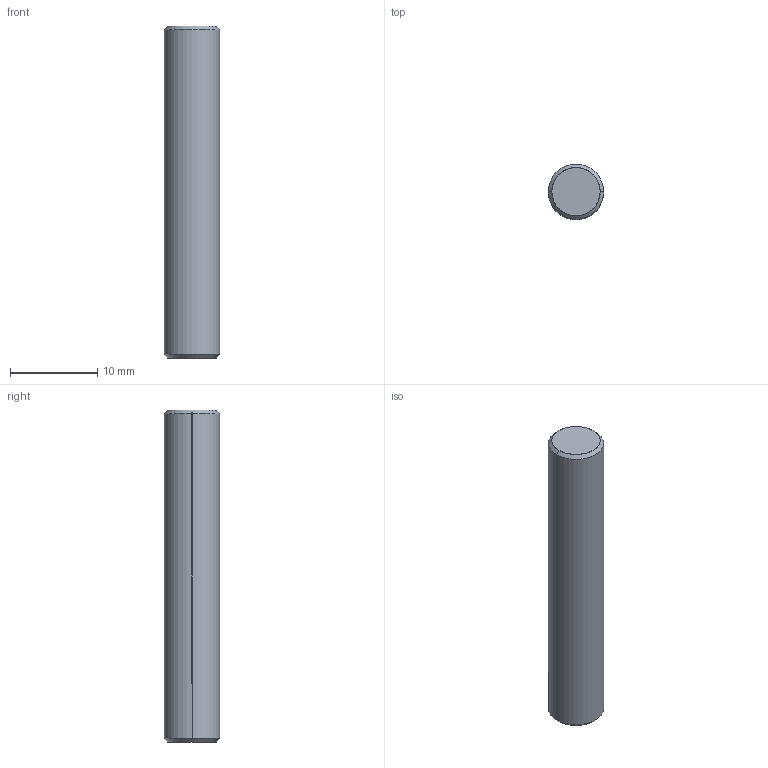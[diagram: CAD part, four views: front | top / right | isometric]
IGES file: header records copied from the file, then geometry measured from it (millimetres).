
Start section: SolidWorks IGES file using analytic representation for surfaces
Global section: file name: D:\Solid_parts\MECHeDESIGN\Bal-Tec\Catalog 105-A\Distribution\IGES\250-C.IGS; native system: SolidWorks 2005 by SolidWorks Corporation; preprocessor: SolidWorks 2005 by SolidWorks Corporation; author: rvillegas; date: 061204.225824; units: inch
Bounding box: 6.35 x 6.35 x 38.1 mm (x, y, z)
Surface area: 813.5 mm2 (no closed solid volume)
Topology: 0 solids, 0 shells, 8 faces, 88 edges, 88 vertices
Faces by surface type: revolution 6, bspline 2
